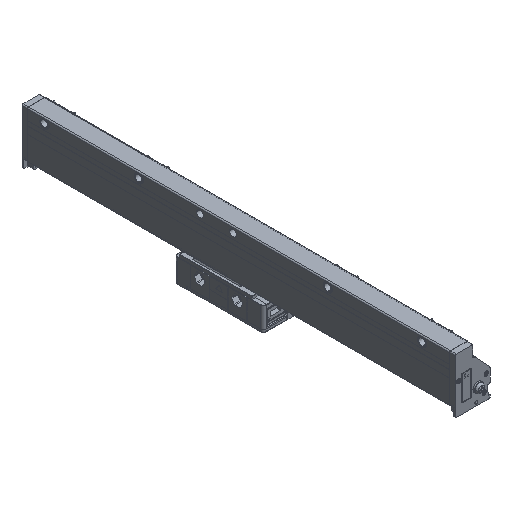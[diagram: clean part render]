
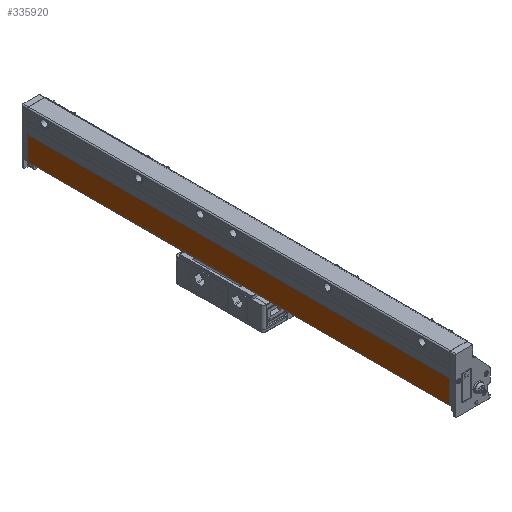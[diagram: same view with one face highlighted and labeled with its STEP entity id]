
A CAD part, isometric view. The second image highlights one B-rep face of the part: STEP entity #335920.
In plain terms, the highlighted planar face has unit normal (-1, 0, 0).
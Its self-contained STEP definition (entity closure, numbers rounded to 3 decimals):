
#13860=CARTESIAN_POINT('',(-2.2,313.,
60.2));
#13870=VERTEX_POINT('',#13860);
#13900=CARTESIAN_POINT('',(-2.2,313.,
35.5));
#13910=DIRECTION('',(0.,0.,1.));
#13920=VECTOR('',#13910,1.);
#13930=LINE('',#13900,#13920);
#13940=CARTESIAN_POINT('',(-2.2,313.,
35.5));
#13950=VERTEX_POINT('',#13940);
#13960=EDGE_CURVE('',#13950,#13870,#13930,.T.);
#325980=CARTESIAN_POINT('',(-2.2,413.,
35.5));
#325990=DIRECTION('',(0.,-1.,0.));
#326000=VECTOR('',#325990,1.);
#326010=LINE('',#325980,#326000);
#326020=CARTESIAN_POINT('',(-2.2,-134.,
35.5));
#326030=VERTEX_POINT('',#326020);
#326040=EDGE_CURVE('',#13950,#326030,#326010,.T.);
#326220=CARTESIAN_POINT('',(-2.2,-134.,
35.5));
#326230=DIRECTION('',(0.,0.,1.));
#326240=VECTOR('',#326230,1.);
#326250=LINE('',#326220,#326240);
#326260=CARTESIAN_POINT('',(-2.2,-134.,
60.2));
#326270=VERTEX_POINT('',#326260);
#326280=EDGE_CURVE('',#326030,#326270,#326250,.T.);
#335720=CARTESIAN_POINT('',(-2.2,413.,
60.2));
#335730=DIRECTION('',(0.,-1.,0.));
#335740=VECTOR('',#335730,1.);
#335750=LINE('',#335720,#335740);
#335760=EDGE_CURVE('',#13870,#326270,#335750,.T.);
#335810=CARTESIAN_POINT('',(-2.2,413.,
60.2));
#335820=DIRECTION('',(1.,0.,-0.));
#335830=DIRECTION('',(0.,0.,1.));
#335840=AXIS2_PLACEMENT_3D('',#335810,#335820,#335830);
#335850=PLANE('',#335840);
#335860=ORIENTED_EDGE('',*,*,#13960,.F.);
#335870=ORIENTED_EDGE('',*,*,#335760,.F.);
#335880=ORIENTED_EDGE('',*,*,#326280,.T.);
#335890=ORIENTED_EDGE('',*,*,#326040,.T.);
#335900=EDGE_LOOP('',(#335890,#335880,#335870,#335860));
#335910=FACE_OUTER_BOUND('',#335900,.T.);
#335920=ADVANCED_FACE('',(#335910),#335850,.F.);
